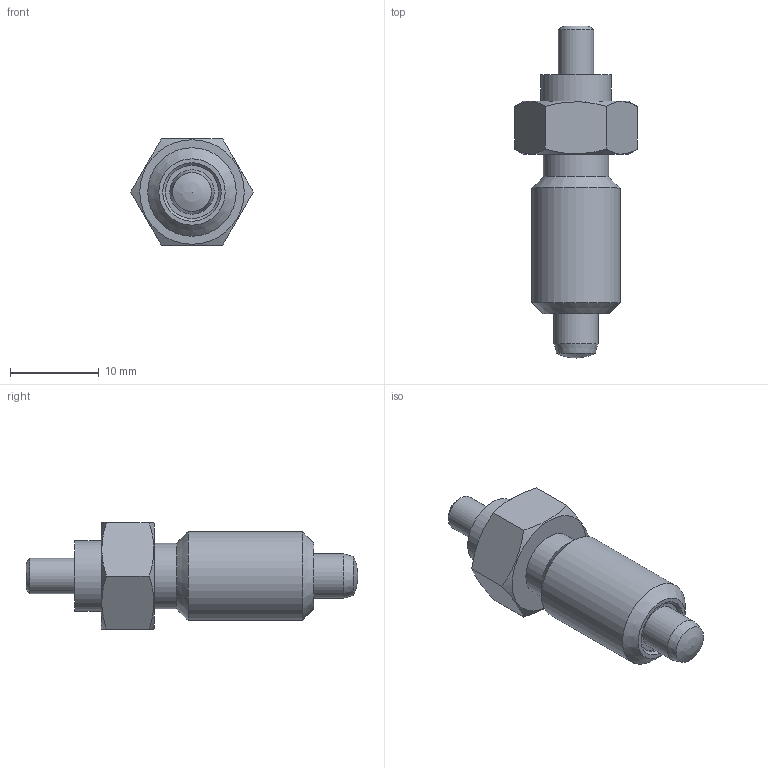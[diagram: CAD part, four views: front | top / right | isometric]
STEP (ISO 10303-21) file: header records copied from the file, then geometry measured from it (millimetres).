
FILE_DESCRIPTION( ( 'STEP AP203' ), '1' );
FILE_NAME( 'C:/Temp/Ganter_Step_05_03_2020/data/3_1/gn817/gn817_ni-rastbolzen/Stainless steel-Indexing plunger GN 817-5-5-G-NI (deactivated).stp', '2020-03-12T08:59:45', ( 'License CC BY-ND 4.0' ), ( 'CADENAS' ), ' ', 'PARTsolutions', ' ' );
FILE_SCHEMA( ( 'CONFIG_CONTROL_DESIGN' ) );
Length unit declared in the file: millimetre
Products named in the file (4): Stainless steel-Indexing plunger GN 817-5-5-G-NI (deactivated); _Stainless steel-Indexing plunger GN 817-5-5-G-NI (deactivated)-d2; _Stainless steel-Indexing plunger GN 817-5-5-B-NI-2; _Stainless Steel-Indexing plunger GN 817-5-5-G-NI-6
Assembly tree (3 placements, depth 2):
  Stainless steel-Indexing plunger GN 817-5-5-G-NI (deactivated)
    _Stainless steel-Indexing plunger GN 817-5-5-G-NI (deactivated)-d2
    _Stainless steel-Indexing plunger GN 817-5-5-B-NI-2
    _Stainless Steel-Indexing plunger GN 817-5-5-G-NI-6
Bounding box: 13.86 x 37.5 x 12 mm (x, y, z)
Volume: 2243.7 mm3; surface area: 2178.4 mm2
Topology: 2 solids, 2 shells, 35 faces, 69 edges, 44 vertices
Faces by surface type: plane 15, cylinder 9, cone 8, torus 2, sphere 1
Full cylindrical faces by diameter (mm): 4 x3, 5 x1, 6 x2, 7.4 x1, 8 x1, 10 x1
Entity records: 995 total; most frequent: CARTESIAN_POINT 233, DIRECTION 138, ORIENTED_EDGE 90, AXIS2_PLACEMENT_3D 66, EDGE_LOOP 62, FACE_OUTER_BOUND 46, EDGE_CURVE 45, VERTEX_POINT 40
